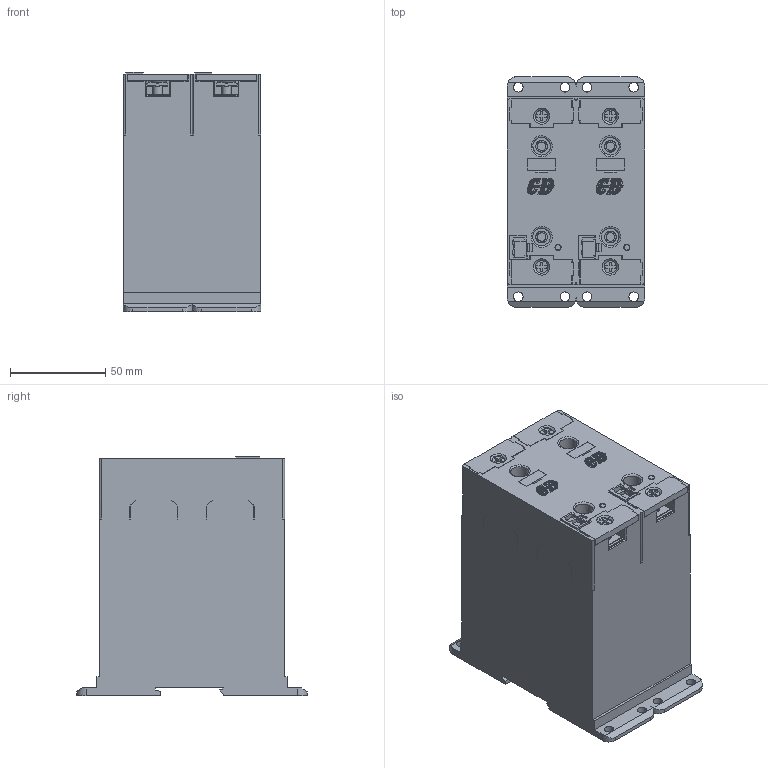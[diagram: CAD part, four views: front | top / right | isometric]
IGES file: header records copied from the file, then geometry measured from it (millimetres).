
Global section: file name: SR4; native system: AutoCAD 2015 - Italiano (Italian); preprocessor: Autodesk Translation Framework DWG producer (atf_dwg_producer); organization: unknown; date: 20191106.180822; units: millimetre
Bounding box: 72 x 120.7 x 125.3 mm (x, y, z)
Volume: 849431.2 mm3; surface area: 81618.9 mm2
Topology: 1 solids, 23 shells, 2624 faces, 7432 edges, 4948 vertices
Faces by surface type: bspline 2624
